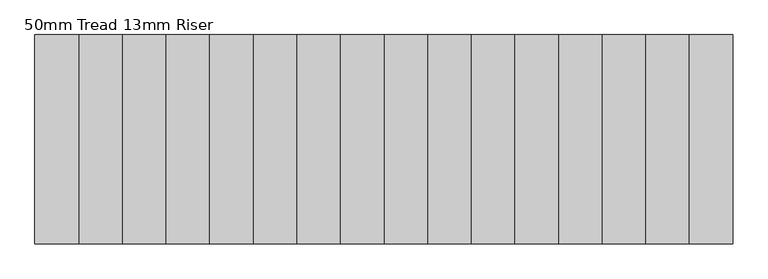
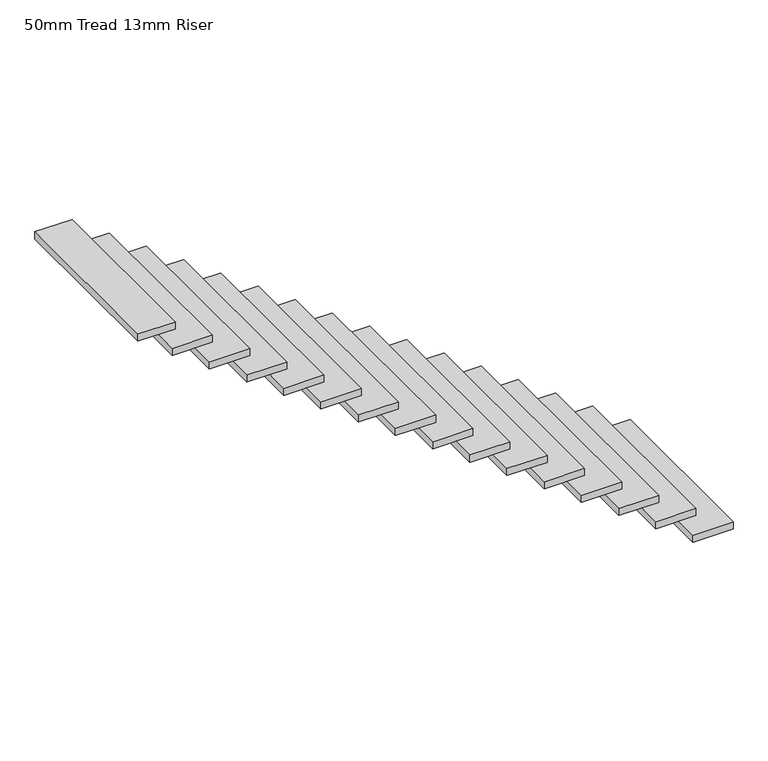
"""IFC4 building model written with IfcOpenShell, lengths in millimetres: stair flight geometry, 50mm Tread 13mm Riser."""

from ifc_helpers import new_model, si_unit, frame, origin, place, context, project, spatial, polyline, outline, extrude, source, transform, mapped, element, save


def stair_flight_50mm_tread_13mm_riser_529925ad(model_context):
    return source(origin(), model_context, "Body", "SweptSolid", [
        extrude(outline(polyline([(12560.6769044, 1099.760891), (12560.6769044, 2299.760891), (12830.6769044, 2299.760891), (12830.6769044, 1099.760891), (12560.6769044, 1099.760891)])), frame((0.0, 0.0, 132.3529412), z_axis=(0.0, 0.0, 1.0), x_axis=(1.0, 0.0, 0.0)), (0.0, 0.0, 1.0), 50.0),
        extrude(outline(polyline([(12310.6769044, 1099.760891), (12310.6769044, 2299.760891), (12580.6769044, 2299.760891), (12580.6769044, 1099.760891), (12310.6769044, 1099.760891)])), frame((0.0, 0.0, 314.7058824), z_axis=(0.0, 0.0, 1.0), x_axis=(1.0, 0.0, 0.0)), (0.0, 0.0, 1.0), 50.0),
        extrude(outline(polyline([(12060.6769044, 1099.760891), (12060.6769044, 2299.760891), (12330.6769044, 2299.760891), (12330.6769044, 1099.760891), (12060.6769044, 1099.760891)])), frame((0.0, 0.0, 497.0588235), z_axis=(0.0, 0.0, 1.0), x_axis=(1.0, 0.0, 0.0)), (0.0, 0.0, 1.0), 50.0),
        extrude(outline(polyline([(11810.6769044, 1099.760891), (11810.6769044, 2299.760891), (12080.6769044, 2299.760891), (12080.6769044, 1099.760891), (11810.6769044, 1099.760891)])), frame((0.0, 0.0, 679.4117647), z_axis=(0.0, 0.0, 1.0), x_axis=(1.0, 0.0, 0.0)), (0.0, 0.0, 1.0), 50.0),
        extrude(outline(polyline([(11560.6769044, 1099.760891), (11560.6769044, 2299.760891), (11830.6769044, 2299.760891), (11830.6769044, 1099.760891), (11560.6769044, 1099.760891)])), frame((0.0, 0.0, 861.7647059), z_axis=(0.0, 0.0, 1.0), x_axis=(1.0, 0.0, 0.0)), (0.0, 0.0, 1.0), 50.0),
        extrude(outline(polyline([(11310.6769044, 1099.760891), (11310.6769044, 2299.760891), (11580.6769044, 2299.760891), (11580.6769044, 1099.760891), (11310.6769044, 1099.760891)])), frame((0.0, 0.0, 1044.1176471), z_axis=(0.0, 0.0, 1.0), x_axis=(1.0, 0.0, 0.0)), (0.0, 0.0, 1.0), 50.0),
        extrude(outline(polyline([(11060.6769044, 1099.760891), (11060.6769044, 2299.760891), (11330.6769044, 2299.760891), (11330.6769044, 1099.760891), (11060.6769044, 1099.760891)])), frame((0.0, 0.0, 1226.4705882), z_axis=(0.0, 0.0, 1.0), x_axis=(1.0, 0.0, 0.0)), (0.0, 0.0, 1.0), 50.0),
        extrude(outline(polyline([(10810.6769044, 1099.760891), (10810.6769044, 2299.760891), (11080.6769044, 2299.760891), (11080.6769044, 1099.760891), (10810.6769044, 1099.760891)])), frame((0.0, 0.0, 1408.8235294), z_axis=(0.0, 0.0, 1.0), x_axis=(1.0, 0.0, 0.0)), (0.0, 0.0, 1.0), 50.0),
        extrude(outline(polyline([(10560.6769044, 1099.760891), (10560.6769044, 2299.760891), (10830.6769044, 2299.760891), (10830.6769044, 1099.760891), (10560.6769044, 1099.760891)])), frame((0.0, 0.0, 1591.1764706), z_axis=(0.0, 0.0, 1.0), x_axis=(1.0, 0.0, 0.0)), (0.0, 0.0, 1.0), 50.0),
        extrude(outline(polyline([(10310.6769044, 1099.760891), (10310.6769044, 2299.760891), (10580.6769044, 2299.760891), (10580.6769044, 1099.760891), (10310.6769044, 1099.760891)])), frame((0.0, 0.0, 1773.5294118), z_axis=(0.0, 0.0, 1.0), x_axis=(1.0, 0.0, 0.0)), (0.0, 0.0, 1.0), 50.0),
        extrude(outline(polyline([(10060.6769044, 1099.760891), (10060.6769044, 2299.760891), (10330.6769044, 2299.760891), (10330.6769044, 1099.760891), (10060.6769044, 1099.760891)])), frame((0.0, 0.0, 1955.8823529), z_axis=(0.0, 0.0, 1.0), x_axis=(1.0, 0.0, 0.0)), (0.0, 0.0, 1.0), 50.0),
        extrude(outline(polyline([(9810.6769044, 1099.760891), (9810.6769044, 2299.760891), (10080.6769044, 2299.760891), (10080.6769044, 1099.760891), (9810.6769044, 1099.760891)])), frame((0.0, 0.0, 2138.2352941), z_axis=(0.0, 0.0, 1.0), x_axis=(1.0, 0.0, 0.0)), (0.0, 0.0, 1.0), 50.0),
        extrude(outline(polyline([(9560.6769044, 1099.760891), (9560.6769044, 2299.760891), (9830.6769044, 2299.760891), (9830.6769044, 1099.760891), (9560.6769044, 1099.760891)])), frame((0.0, 0.0, 2320.5882353), z_axis=(0.0, 0.0, 1.0), x_axis=(1.0, 0.0, 0.0)), (0.0, 0.0, 1.0), 50.0),
        extrude(outline(polyline([(9310.6769044, 1099.760891), (9310.6769044, 2299.760891), (9580.6769044, 2299.760891), (9580.6769044, 1099.760891), (9310.6769044, 1099.760891)])), frame((0.0, 0.0, 2502.9411765), z_axis=(0.0, 0.0, 1.0), x_axis=(1.0, 0.0, 0.0)), (0.0, 0.0, 1.0), 50.0),
        extrude(outline(polyline([(9060.6769044, 1099.760891), (9060.6769044, 2299.760891), (9330.6769044, 2299.760891), (9330.6769044, 1099.760891), (9060.6769044, 1099.760891)])), frame((0.0, 0.0, 2685.2941176), z_axis=(0.0, 0.0, 1.0), x_axis=(1.0, 0.0, 0.0)), (0.0, 0.0, 1.0), 50.0),
        extrude(outline(polyline([(8830.6769044, 1099.760891), (8830.6769044, 2299.760891), (9080.6769044, 2299.760891), (9080.6769044, 1099.760891), (8830.6769044, 1099.760891)])), frame((0.0, 0.0, 2867.6470588), z_axis=(0.0, 0.0, 1.0), x_axis=(1.0, 0.0, 0.0)), (0.0, 0.0, 1.0), 50.0),
    ])


if __name__ == "__main__":
    model = new_model("IFC4")
    model_context = context("Model", 3, world=origin())
    ifc_project = project(units=[si_unit("LENGTHUNIT", "METRE", prefix="MILLI")], contexts=[model_context])
    site = spatial("IfcSite", under=ifc_project)
    building = spatial("IfcBuilding", under=site)
    placement = place(None, origin())
    stair_flight_50mm_tread_13mm_riser_shape = stair_flight_50mm_tread_13mm_riser_529925ad(model_context)
    element("IfcStairFlight", 1, ObjectType="50mm Tread 13mm Riser", at=placement, inside=building, context=model_context, shape_type="MappedRepresentation", body=[
        mapped(stair_flight_50mm_tread_13mm_riser_shape, transform((0.0, 0.0, 0.0), x_axis=(1.0, 0.0, 0.0), y_axis=(0.0, 1.0, 0.0), z_axis=(0.0, 0.0, 1.0))),
    ])
    save(model, "model.ifc")
